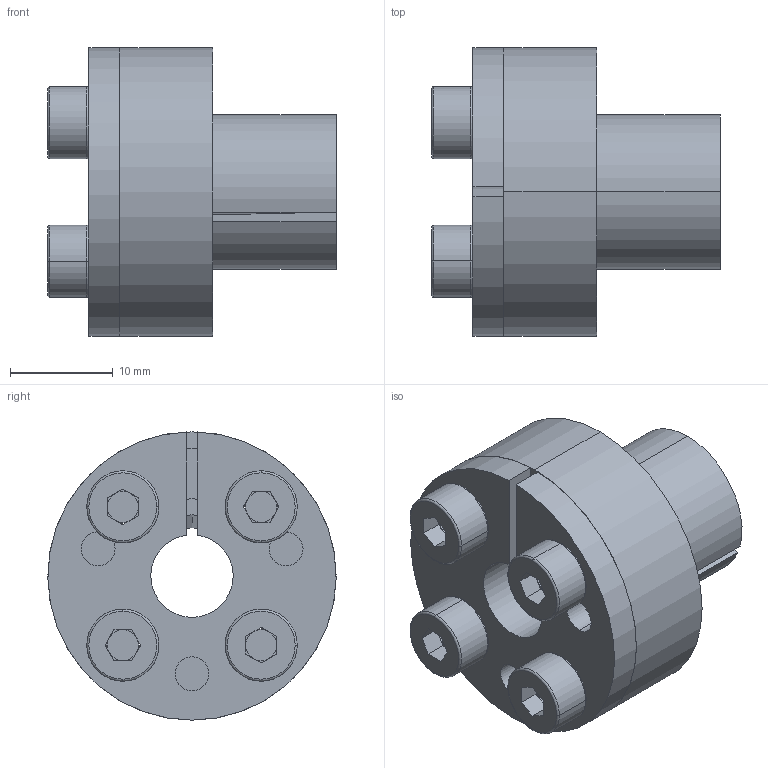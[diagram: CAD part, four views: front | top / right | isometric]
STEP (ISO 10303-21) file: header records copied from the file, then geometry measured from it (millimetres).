
FILE_DESCRIPTION (( 'STEP AP203' ), '1' );
FILE_NAME ('T-08-15.STEP', '2017-11-09T23:57:32', ( 'MYCOM' ), ( '' ), 'SwSTEP 2.0', 'SolidWorks 2015', '' );
FILE_SCHEMA (( 'CONFIG_CONTROL_DESIGN' ));
Length unit declared in the file: millimetre
Products named in the file (1): T-08-15
Bounding box: 28.02 x 28 x 28 mm (x, y, z)
Surface area: 7406.2 mm2 (no closed solid volume)
Topology: 0 solids, 11 shells, 126 faces, 334 edges, 214 vertices
Faces by surface type: plane 61, cylinder 45, torus 16, cone 4
Entity records: 4017 total; most frequent: DIRECTION 752, CARTESIAN_POINT 693, ORIENTED_EDGE 590, EDGE_CURVE 334, AXIS2_PLACEMENT_3D 295, VERTEX_POINT 214, CIRCLE 168, VECTOR 162
